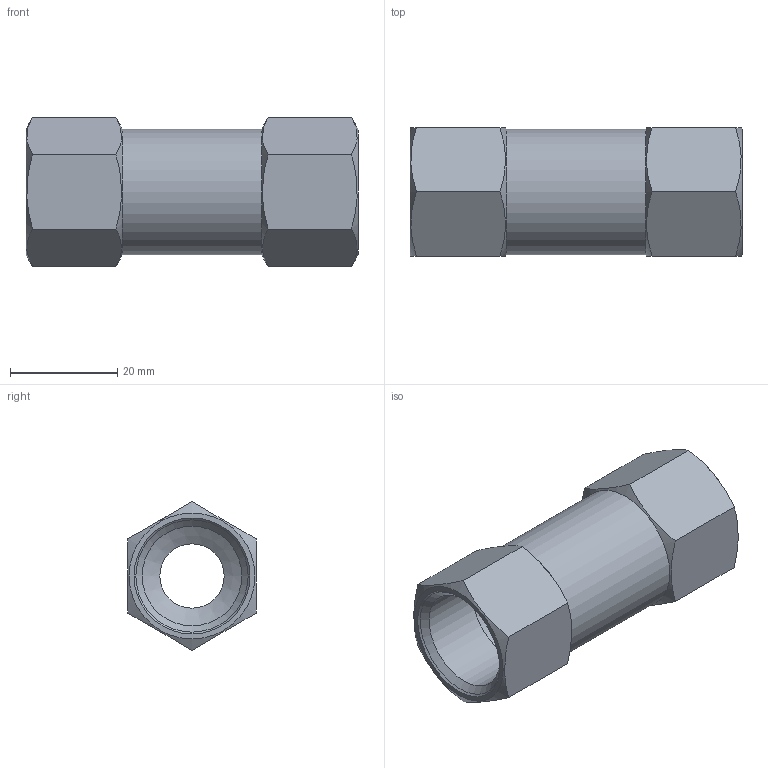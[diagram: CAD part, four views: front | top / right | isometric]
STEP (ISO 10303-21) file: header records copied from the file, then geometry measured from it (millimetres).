
FILE_DESCRIPTION(/* description */ (''),/* implementation_level */ '2;1');
FILE_NAME(/* name */ '304055_RÜCKSCHLAGVENTIL_1-2',/* time_stamp */ '2013-11-15T11:15:11+01:00',/* author */ (''),/* organization */ (''),/* preprocessor_version */ 'ST-DEVELOPER v14',/* originating_system */ 'HiCAD 2013 1802.0 Build 258',/* authorisation */ '');
FILE_SCHEMA (('AUTOMOTIVE_DESIGN { 1 0 10303 214 1 1 1 1 }'));
Length unit declared in the file: millimetre
Products named in the file (4): Root; 304055
Assembly tree (3 placements, depth 3):
  Root
    304055
      (unnamed)
      (unnamed)
Bounding box: 62 x 24 x 27.71 mm (x, y, z)
Volume: 17082.4 mm3; surface area: 12057 mm2
Topology: 3 solids, 3 shells, 38 faces, 91 edges, 59 vertices
Faces by surface type: plane 18, cylinder 10, cone 10
Full cylindrical faces by diameter (mm): 12 x1, 18.631 x4, 20.955 x4, 23.5 x1
Entity records: 1618 total; most frequent: DIRECTION 196, CARTESIAN_POINT 152, PRESENTATION_STYLE_ASSIGNMENT 123, COLOUR_RGB 121, DRAUGHTING_PRE_DEFINED_CURVE_FONT 120, CURVE_STYLE 120, OVER_RIDING_STYLED_ITEM 120, ORIENTED_EDGE 120
